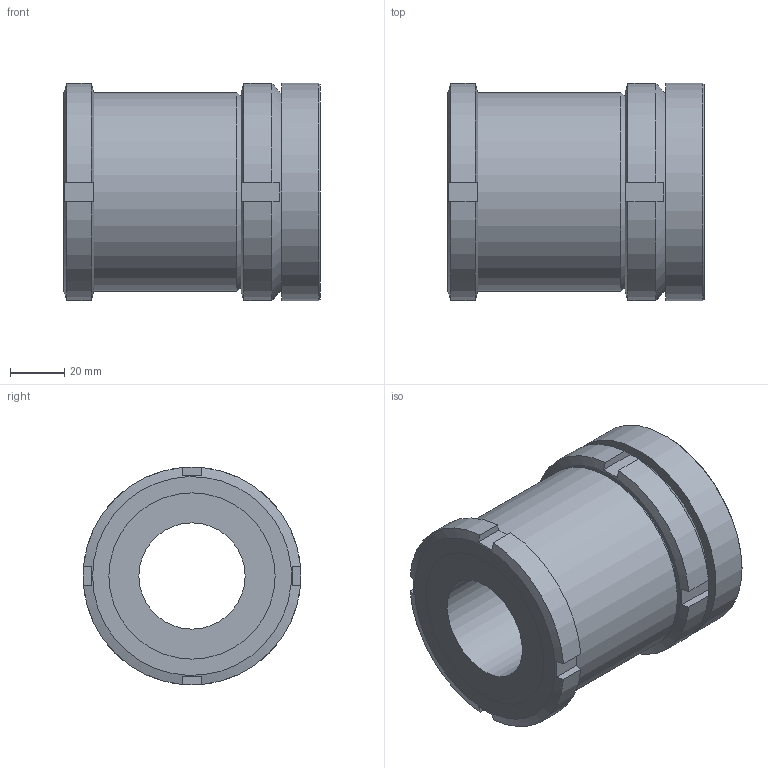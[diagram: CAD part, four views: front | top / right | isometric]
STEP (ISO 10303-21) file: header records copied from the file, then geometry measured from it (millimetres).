
FILE_DESCRIPTION( ( 'STEP AP203' ), '1' );
FILE_NAME( 'C:/Temp/Ganter_Step_05_03_2020/data/3_2/gn350_2/gn_350_2_st/Levelling set GN 350.2-80-39-94-ST (0-0).stp', '2020-03-13T05:28:03', ( 'License CC BY-ND 4.0' ), ( 'CADENAS' ), ' ', 'PARTsolutions', ' ' );
FILE_SCHEMA( ( 'CONFIG_CONTROL_DESIGN' ) );
Length unit declared in the file: millimetre
Products named in the file (4): Levelling set GN 350.2-80-39-94-ST (0-0); _Levelling set GN 350.2-80-39-94-ST-G; _Levelling set GN 350.2-80-39-94-ST-K; _Levelling set GN 350.2-80-39-94-ST-P(0)
Assembly tree (3 placements, depth 2):
  Levelling set GN 350.2-80-39-94-ST (0-0)
    _Levelling set GN 350.2-80-39-94-ST-G
    _Levelling set GN 350.2-80-39-94-ST-K
    _Levelling set GN 350.2-80-39-94-ST-P(0)
Bounding box: 94 x 80 x 80 mm (x, y, z)
Volume: 299888.9 mm3; surface area: 79257.6 mm2
Topology: 3 solids, 3 shells, 62 faces, 149 edges, 99 vertices
Faces by surface type: plane 36, cylinder 19, cone 5, sphere 2
Full cylindrical faces by diameter (mm): 39 x1, 48 x1, 53.529 x1, 54.5 x1, 57.835 x1, 60 x2, 61 x2, 73 x1, 80 x1
Entity records: 1925 total; most frequent: CARTESIAN_POINT 462, DIRECTION 276, ORIENTED_EDGE 248, EDGE_CURVE 124, AXIS2_PLACEMENT_3D 122, EDGE_LOOP 92, VERTEX_POINT 92, FACE_OUTER_BOUND 75
